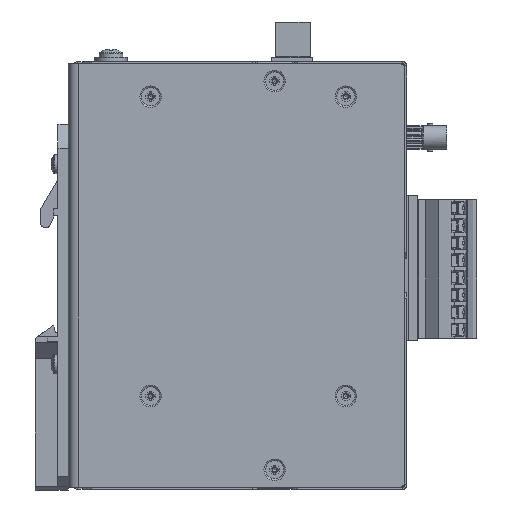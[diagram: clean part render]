
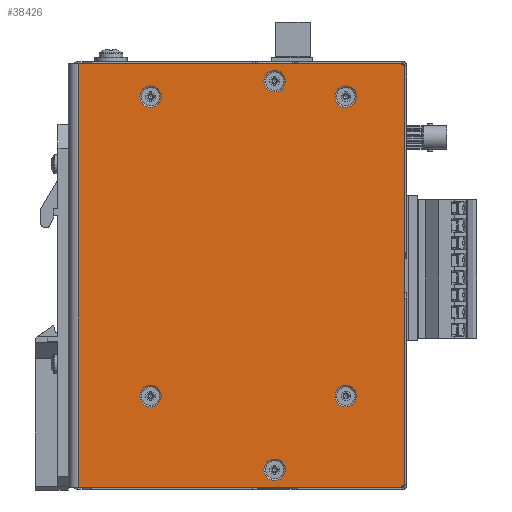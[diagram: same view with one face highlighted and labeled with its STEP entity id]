
A CAD part, left-side view. The second image highlights one B-rep face of the part: STEP entity #38426.
In plain terms, the highlighted planar face has unit normal (-1, 0, 0).
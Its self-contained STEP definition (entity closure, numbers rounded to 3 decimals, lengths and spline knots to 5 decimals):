
#2579=CIRCLE('',#45516,0.00152);
#2581=CIRCLE('',#45520,0.00152);
#2582=CIRCLE('',#45522,0.00315);
#2583=CIRCLE('',#45523,0.00315);
#2584=CIRCLE('',#45524,0.00315);
#2585=CIRCLE('',#45525,0.00315);
#2586=CIRCLE('',#45526,0.00315);
#2587=CIRCLE('',#45527,0.00315);
#12770=ORIENTED_EDGE('',*,*,#17850,.T.);
#12771=ORIENTED_EDGE('',*,*,#17851,.T.);
#12772=ORIENTED_EDGE('',*,*,#17852,.T.);
#12773=ORIENTED_EDGE('',*,*,#17853,.T.);
#12774=ORIENTED_EDGE('',*,*,#17854,.T.);
#12775=ORIENTED_EDGE('',*,*,#17855,.T.);
#12776=ORIENTED_EDGE('',*,*,#17847,.F.);
#12777=ORIENTED_EDGE('',*,*,#17849,.F.);
#12778=ORIENTED_EDGE('',*,*,#17837,.F.);
#12779=ORIENTED_EDGE('',*,*,#17856,.F.);
#12780=ORIENTED_EDGE('',*,*,#17841,.F.);
#12781=ORIENTED_EDGE('',*,*,#17844,.F.);
#17837=EDGE_CURVE('',#21400,#21398,#24742,.T.);
#17841=EDGE_CURVE('',#21404,#21402,#24746,.F.);
#17844=EDGE_CURVE('',#21406,#21404,#2579,.F.);
#17847=EDGE_CURVE('',#21408,#21406,#24750,.F.);
#17849=EDGE_CURVE('',#21398,#21408,#2581,.F.);
#17850=EDGE_CURVE('',#21409,#21409,#2582,.T.);
#17851=EDGE_CURVE('',#21410,#21410,#2583,.T.);
#17852=EDGE_CURVE('',#21411,#21411,#2584,.T.);
#17853=EDGE_CURVE('',#21412,#21412,#2585,.T.);
#17854=EDGE_CURVE('',#21413,#21413,#2586,.T.);
#17855=EDGE_CURVE('',#21414,#21414,#2587,.T.);
#17856=EDGE_CURVE('',#21402,#21400,#24751,.F.);
#21398=VERTEX_POINT('',#67679);
#21400=VERTEX_POINT('',#67683);
#21402=VERTEX_POINT('',#67688);
#21404=VERTEX_POINT('',#67692);
#21406=VERTEX_POINT('',#67698);
#21408=VERTEX_POINT('',#67704);
#21409=VERTEX_POINT('',#67711);
#21410=VERTEX_POINT('',#67713);
#21411=VERTEX_POINT('',#67715);
#21412=VERTEX_POINT('',#67717);
#21413=VERTEX_POINT('',#67719);
#21414=VERTEX_POINT('',#67721);
#24742=LINE('',#67684,#28068);
#24746=LINE('',#67693,#28072);
#24750=LINE('',#67705,#28076);
#24751=LINE('',#67722,#28077);
#28068=VECTOR('',#55959,1.);
#28072=VECTOR('',#55965,1.);
#28076=VECTOR('',#55977,1.);
#28077=VECTOR('',#55998,1.);
#31243=EDGE_LOOP('',(#12770));
#31244=EDGE_LOOP('',(#12771));
#31245=EDGE_LOOP('',(#12772));
#31246=EDGE_LOOP('',(#12773));
#31247=EDGE_LOOP('',(#12774));
#31248=EDGE_LOOP('',(#12775));
#31249=EDGE_LOOP('',(#12776,#12777,#12778,#12779,#12780,#12781));
#34452=FACE_BOUND('',#31243,.T.);
#34453=FACE_BOUND('',#31244,.T.);
#34454=FACE_BOUND('',#31245,.T.);
#34455=FACE_BOUND('',#31246,.T.);
#34456=FACE_BOUND('',#31247,.T.);
#34457=FACE_BOUND('',#31248,.T.);
#34458=FACE_BOUND('',#31249,.T.);
#35839=PLANE('',#45521);
#38426=ADVANCED_FACE('',(#34452,#34453,#34454,#34455,#34456,#34457,#34458),
#35839,.T.);
#45516=AXIS2_PLACEMENT_3D('',#67699,#55971,#55972);
#45520=AXIS2_PLACEMENT_3D('',#67708,#55982,#55983);
#45521=AXIS2_PLACEMENT_3D('',#67709,#55984,#55985);
#45522=AXIS2_PLACEMENT_3D('',#67710,#55986,#55987);
#45523=AXIS2_PLACEMENT_3D('',#67712,#55988,#55989);
#45524=AXIS2_PLACEMENT_3D('',#67714,#55990,#55991);
#45525=AXIS2_PLACEMENT_3D('',#67716,#55992,#55993);
#45526=AXIS2_PLACEMENT_3D('',#67718,#55994,#55995);
#45527=AXIS2_PLACEMENT_3D('',#67720,#55996,#55997);
#55959=DIRECTION('',(0.,-1.,0.));
#55965=DIRECTION('',(0.,-1.,0.));
#55971=DIRECTION('',(-1.,0.,0.));
#55972=DIRECTION('',(0.,-1.,0.));
#55977=DIRECTION('',(0.,0.,1.));
#55982=DIRECTION('',(-1.,0.,0.));
#55983=DIRECTION('',(0.,-1.,0.));
#55984=DIRECTION('',(-1.,0.,0.));
#55985=DIRECTION('',(0.,-1.,0.));
#55986=DIRECTION('',(1.,0.,0.));
#55987=DIRECTION('',(0.,0.,-1.));
#55988=DIRECTION('',(1.,0.,0.));
#55989=DIRECTION('',(0.,0.,-1.));
#55990=DIRECTION('',(1.,0.,0.));
#55991=DIRECTION('',(0.,0.,-1.));
#55992=DIRECTION('',(1.,0.,0.));
#55993=DIRECTION('',(0.,0.,-1.));
#55994=DIRECTION('',(1.,0.,0.));
#55995=DIRECTION('',(0.,0.,-1.));
#55996=DIRECTION('',(1.,0.,0.));
#55997=DIRECTION('',(0.,0.,-1.));
#55998=DIRECTION('',(0.,0.,-1.));
#67679=CARTESIAN_POINT('',(-0.02311,-0.0955,0.12395));
#67683=CARTESIAN_POINT('',(-0.02311,-0.00152,0.12395));
#67684=CARTESIAN_POINT('',(-0.02311,-0.04851,0.12395));
#67688=CARTESIAN_POINT('',(-0.02311,-0.00152,0.));
#67692=CARTESIAN_POINT('',(-0.02311,-0.0955,0.));
#67693=CARTESIAN_POINT('',(-0.02311,-0.04851,0.));
#67698=CARTESIAN_POINT('',(-0.02311,-0.09703,0.00152));
#67699=CARTESIAN_POINT('',(-0.02311,-0.0955,0.00152));
#67704=CARTESIAN_POINT('',(-0.02311,-0.09703,0.12243));
#67705=CARTESIAN_POINT('',(-0.02311,-0.09703,0.06198));
#67708=CARTESIAN_POINT('',(-0.02311,-0.0955,0.12243));
#67709=CARTESIAN_POINT('',(-0.02311,-0.04851,0.06198));
#67710=CARTESIAN_POINT('',(-0.02311,-0.05893,0.00508));
#67711=CARTESIAN_POINT('',(-0.02311,-0.05893,0.00193));
#67712=CARTESIAN_POINT('',(-0.02311,-0.07976,0.1143));
#67713=CARTESIAN_POINT('',(-0.02311,-0.07976,0.11115));
#67714=CARTESIAN_POINT('',(-0.02311,-0.05893,0.11887));
#67715=CARTESIAN_POINT('',(-0.02311,-0.05893,0.11572));
#67716=CARTESIAN_POINT('',(-0.02311,-0.02261,0.1143));
#67717=CARTESIAN_POINT('',(-0.02311,-0.02261,0.11115));
#67718=CARTESIAN_POINT('',(-0.02311,-0.02261,0.02667));
#67719=CARTESIAN_POINT('',(-0.02311,-0.02261,0.02352));
#67720=CARTESIAN_POINT('',(-0.02311,-0.07976,0.02667));
#67721=CARTESIAN_POINT('',(-0.02311,-0.07976,0.02352));
#67722=CARTESIAN_POINT('',(-0.02311,-0.00152,0.06198));
